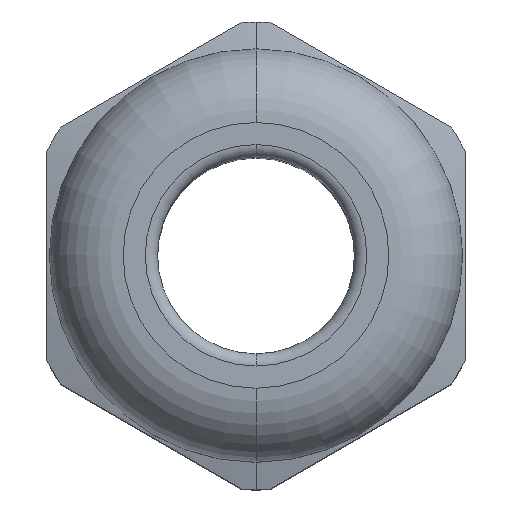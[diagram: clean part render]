
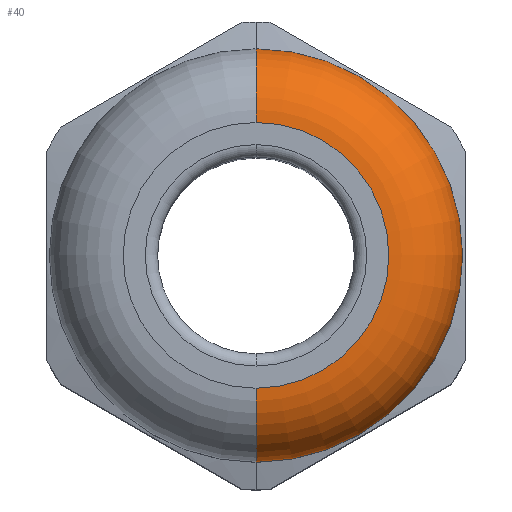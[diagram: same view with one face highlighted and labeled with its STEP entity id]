
A CAD part, top view. The second image highlights one B-rep face of the part: STEP entity #40.
In plain terms, the highlighted toroidal (fillet/blend) face has major radius 5.4 mm and minor radius 3 mm.
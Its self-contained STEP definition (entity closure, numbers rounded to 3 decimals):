
#39 = EDGE_LOOP ( 'NONE', ( #57, #133, #131, #127 ) ) ;
#40 = ADVANCED_FACE ( 'NONE', ( #703 ), #696, .T. ) ;
#56 = EDGE_CURVE ( 'NONE', #59, #60, #756, .T. ) ;
#57 = ORIENTED_EDGE ( 'NONE', *, *, #58, .T. ) ;
#58 = EDGE_CURVE ( 'NONE', #132, #59, #751, .T. ) ;
#59 = VERTEX_POINT ( 'NONE', #746 ) ;
#60 = VERTEX_POINT ( 'NONE', #745 ) ;
#87 = EDGE_CURVE ( 'NONE', #128, #60, #1053, .T. ) ;
#125 = EDGE_CURVE ( 'NONE', #132, #128, #1062, .T. ) ;
#127 = ORIENTED_EDGE ( 'NONE', *, *, #125, .F. ) ;
#128 = VERTEX_POINT ( 'NONE', #1037 ) ;
#131 = ORIENTED_EDGE ( 'NONE', *, *, #87, .F. ) ;
#132 = VERTEX_POINT ( 'NONE', #1032 ) ;
#133 = ORIENTED_EDGE ( 'NONE', *, *, #56, .T. ) ;
#693 = DIRECTION ( 'NONE',  ( 0., 1., 0. ) ) ;
#694 = DIRECTION ( 'NONE',  ( 0., 0., -1. ) ) ;
#695 = AXIS2_PLACEMENT_3D ( 'NONE', #697, #694, #693 ) ;
#696 = TOROIDAL_SURFACE ( 'NONE', #695, 5.4, 3. ) ;
#697 = CARTESIAN_POINT ( 'NONE',  ( 0., 0., 26. ) ) ;
#703 = FACE_OUTER_BOUND ( 'NONE', #39, .T. ) ;
#745 = CARTESIAN_POINT ( 'NONE',  ( 0., -8.4, 26. ) ) ;
#746 = CARTESIAN_POINT ( 'NONE',  ( 0., -5.4, 29. ) ) ;
#747 = DIRECTION ( 'NONE',  ( 0., 1., 0. ) ) ;
#748 = DIRECTION ( 'NONE',  ( 0., 0., -1. ) ) ;
#749 = CARTESIAN_POINT ( 'NONE',  ( 0., 0., 29. ) ) ;
#750 = AXIS2_PLACEMENT_3D ( 'NONE', #749, #748, #747 ) ;
#751 = CIRCLE ( 'NONE', #750, 5.4 ) ;
#752 = DIRECTION ( 'NONE',  ( 0., 1., 0. ) ) ;
#753 = DIRECTION ( 'NONE',  ( 1., 0., 0. ) ) ;
#754 = CARTESIAN_POINT ( 'NONE',  ( 0., -5.4, 26. ) ) ;
#755 = AXIS2_PLACEMENT_3D ( 'NONE', #754, #753, #752 ) ;
#756 = CIRCLE ( 'NONE', #755, 3. ) ;
#1032 = CARTESIAN_POINT ( 'NONE',  ( 0., 5.4, 29. ) ) ;
#1037 = CARTESIAN_POINT ( 'NONE',  ( 0., 8.4, 26. ) ) ;
#1044 = DIRECTION ( 'NONE',  ( 0., 0., 1. ) ) ;
#1045 = DIRECTION ( 'NONE',  ( -1., 0., 0. ) ) ;
#1046 = CARTESIAN_POINT ( 'NONE',  ( 0., 5.4, 26. ) ) ;
#1047 = AXIS2_PLACEMENT_3D ( 'NONE', #1046, #1045, #1044 ) ;
#1049 = DIRECTION ( 'NONE',  ( 0., 1., 0. ) ) ;
#1050 = DIRECTION ( 'NONE',  ( 0., 0., -1. ) ) ;
#1051 = CARTESIAN_POINT ( 'NONE',  ( 0., 0., 26. ) ) ;
#1052 = AXIS2_PLACEMENT_3D ( 'NONE', #1051, #1050, #1049 ) ;
#1053 = CIRCLE ( 'NONE', #1052, 8.4 ) ;
#1062 = CIRCLE ( 'NONE', #1047, 3. ) ;
